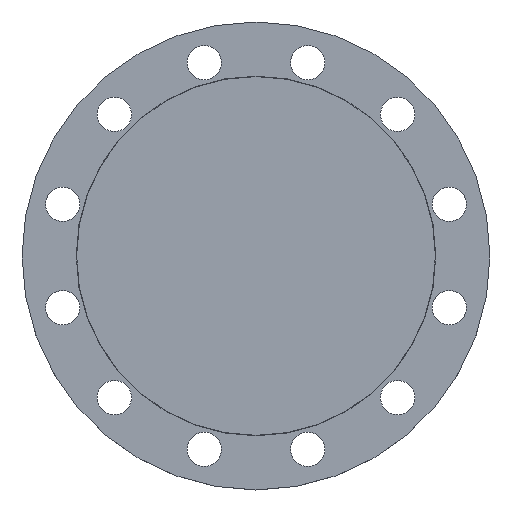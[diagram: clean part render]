
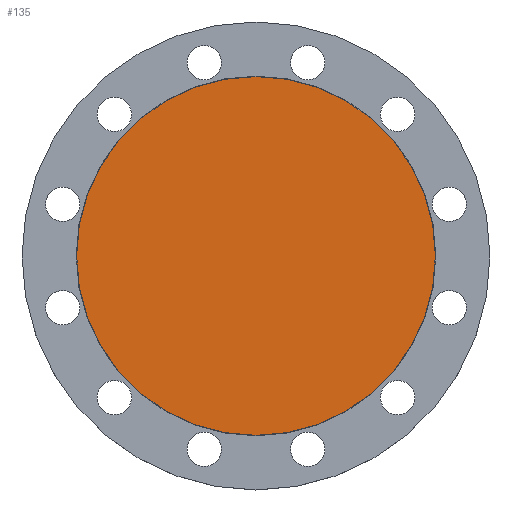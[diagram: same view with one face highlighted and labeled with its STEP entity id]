
A CAD part, top view. The second image highlights one B-rep face of the part: STEP entity #135.
In plain terms, the highlighted planar face has unit normal (0, 0, 1).
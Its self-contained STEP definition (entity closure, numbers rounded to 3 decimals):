
#135 = ADVANCED_FACE ( 'NONE', ( #671 ), #670, .T. ) ;
#150 = AXIS2_PLACEMENT_3D ( 'NONE', #669, #668, #667 ) ;
#173 = CARTESIAN_POINT ( 'NONE',  ( -172.5, 0., 0. ) ) ;
#247 = CIRCLE ( 'NONE', #615, 172.5 ) ;
#356 = DIRECTION ( 'NONE',  ( -1., 0., 0. ) ) ;
#357 = DIRECTION ( 'NONE',  ( 0., 0., -1. ) ) ;
#358 = CARTESIAN_POINT ( 'NONE',  ( 0., 0., 0. ) ) ;
#465 = DIRECTION ( 'NONE',  ( -1., 0., 0. ) ) ;
#466 = DIRECTION ( 'NONE',  ( 0., 0., -1. ) ) ;
#467 = CARTESIAN_POINT ( 'NONE',  ( 0., 0., 0. ) ) ;
#583 = CARTESIAN_POINT ( 'NONE',  ( 172.5, 0., 0. ) ) ;
#615 = AXIS2_PLACEMENT_3D ( 'NONE', #358, #357, #356 ) ;
#667 = DIRECTION ( 'NONE',  ( 1., 0., 0. ) ) ;
#668 = DIRECTION ( 'NONE',  ( 0., 0., 1. ) ) ;
#669 = CARTESIAN_POINT ( 'NONE',  ( 0., 0., 0. ) ) ;
#670 = PLANE ( 'NONE',  #150 ) ;
#671 = FACE_OUTER_BOUND ( 'NONE', #1217, .T. ) ;
#753 = EDGE_CURVE ( 'NONE', #1119, #1110, #1084, .T. ) ;
#841 = AXIS2_PLACEMENT_3D ( 'NONE', #467, #466, #465 ) ;
#896 = ORIENTED_EDGE ( 'NONE', *, *, #902, .F. ) ;
#902 = EDGE_CURVE ( 'NONE', #1110, #1119, #247, .T. ) ;
#959 = ORIENTED_EDGE ( 'NONE', *, *, #753, .F. ) ;
#1084 = CIRCLE ( 'NONE', #841, 172.5 ) ;
#1110 = VERTEX_POINT ( 'NONE', #173 ) ;
#1119 = VERTEX_POINT ( 'NONE', #583 ) ;
#1217 = EDGE_LOOP ( 'NONE', ( #896, #959 ) ) ;
